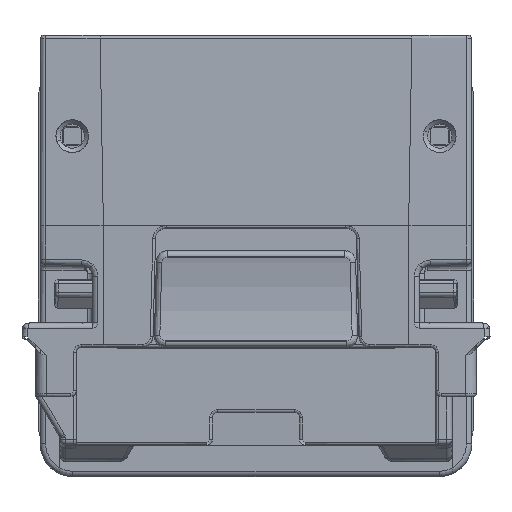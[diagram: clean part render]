
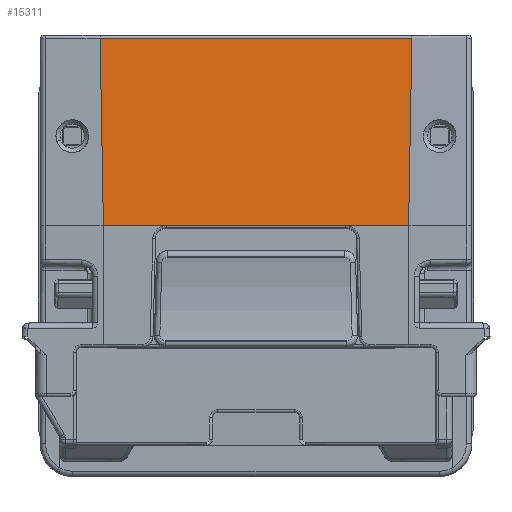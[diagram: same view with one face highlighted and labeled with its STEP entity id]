
A CAD part, front view. The second image highlights one B-rep face of the part: STEP entity #15311.
In plain terms, the highlighted planar face has unit normal (0, -1, 0.009).
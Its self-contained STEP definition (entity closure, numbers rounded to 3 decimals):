
#884 = DIRECTION ( 'NONE',  ( -1., 0., 0. ) ) ;
#2832 = DIRECTION ( 'NONE',  ( 0.017, -0.009, -1. ) ) ;
#3144 = LINE ( 'NONE', #19014, #30616 ) ;
#3338 = VERTEX_POINT ( 'NONE', #39758 ) ;
#3926 = LINE ( 'NONE', #66750, #58544 ) ;
#4484 = VERTEX_POINT ( 'NONE', #23251 ) ;
#5128 = CARTESIAN_POINT ( 'NONE',  ( 27.792, -255.561, -6.12 ) ) ;
#5255 = VECTOR ( 'NONE', #48580, 1000. ) ;
#6745 = CARTESIAN_POINT ( 'NONE',  ( -22.523, -255.198, 35.5 ) ) ;
#7119 = CARTESIAN_POINT ( 'NONE',  ( -22.523, -255.45, 6.6 ) ) ;
#8828 = EDGE_CURVE ( 'NONE', #22387, #57452, #31494, .T. ) ;
#8846 = CARTESIAN_POINT ( 'NONE',  ( -27.806, -255.554, -5.334 ) ) ;
#9711 = ORIENTED_EDGE ( 'NONE', *, *, #64449, .T. ) ;
#11348 = EDGE_LOOP ( 'NONE', ( #64445, #13132, #62945 ) ) ;
#13132 = ORIENTED_EDGE ( 'NONE', *, *, #14838, .F. ) ;
#13192 = CARTESIAN_POINT ( 'NONE',  ( -28.502, -255.206, 34.555 ) ) ;
#14528 = DIRECTION ( 'NONE',  ( 0., -0.009, -1. ) ) ;
#14838 = EDGE_CURVE ( 'NONE', #38296, #57452, #21647, .T. ) ;
#15092 = CARTESIAN_POINT ( 'NONE',  ( 28.615, -255.15, 41.004 ) ) ;
#15311 = ADVANCED_FACE ( 'NONE', ( #56640, #20224, #30695 ), #62283, .T. ) ;
#15736 = LINE ( 'NONE', #48600, #53156 ) ;
#16095 = CARTESIAN_POINT ( 'NONE',  ( -28.615, -255.15, 41.004 ) ) ;
#17209 = ORIENTED_EDGE ( 'NONE', *, *, #33567, .F. ) ;
#17431 = LINE ( 'NONE', #21997, #5255 ) ;
#18114 = CARTESIAN_POINT ( 'NONE',  ( 28.502, -255.206, 34.555 ) ) ;
#19014 = CARTESIAN_POINT ( 'NONE',  ( 28.502, -255.553, -5.242 ) ) ;
#20025 = DIRECTION ( 'NONE',  ( -0.017, 0.009, 1. ) ) ;
#20046 = EDGE_CURVE ( 'NONE', #42072, #22734, #3926, .T. ) ;
#20224 = FACE_OUTER_BOUND ( 'NONE', #37380, .T. ) ;
#20333 = CARTESIAN_POINT ( 'NONE',  ( -22.523, -255.198, 35.5 ) ) ;
#21034 = EDGE_LOOP ( 'NONE', ( #45299, #66225, #69190 ) ) ;
#21364 = EDGE_CURVE ( 'NONE', #38296, #22387, #3144, .T. ) ;
#21521 = VERTEX_POINT ( 'NONE', #24600 ) ;
#21647 = LINE ( 'NONE', #5128, #44834 ) ;
#21997 = CARTESIAN_POINT ( 'NONE',  ( 27.792, -255.561, -6.12 ) ) ;
#22387 = VERTEX_POINT ( 'NONE', #41419 ) ;
#22734 = VERTEX_POINT ( 'NONE', #13192 ) ;
#23251 = CARTESIAN_POINT ( 'NONE',  ( 28.014, -255.45, 6.6 ) ) ;
#24600 = CARTESIAN_POINT ( 'NONE',  ( -28.615, -255.15, 41.004 ) ) ;
#24918 = LINE ( 'NONE', #68040, #60414 ) ;
#25482 = VERTEX_POINT ( 'NONE', #15092 ) ;
#27024 = AXIS2_PLACEMENT_3D ( 'NONE', #40854, #46454, #57701 ) ;
#29293 = VERTEX_POINT ( 'NONE', #16095 ) ;
#29868 = CARTESIAN_POINT ( 'NONE',  ( -27.792, -255.561, -6.12 ) ) ;
#30616 = VECTOR ( 'NONE', #41040, 1000. ) ;
#30695 = FACE_BOUND ( 'NONE', #21034, .T. ) ;
#31006 = VECTOR ( 'NONE', #884, 1000. ) ;
#31278 = ORIENTED_EDGE ( 'NONE', *, *, #32869, .T. ) ;
#31494 = LINE ( 'NONE', #20333, #66043 ) ;
#32869 = EDGE_CURVE ( 'NONE', #54144, #25482, #15736, .T. ) ;
#33567 = EDGE_CURVE ( 'NONE', #3338, #29293, #67076, .T. ) ;
#35491 = EDGE_CURVE ( 'NONE', #62163, #42072, #65322, .T. ) ;
#36683 = DIRECTION ( 'NONE',  ( 0.017, 0.009, 1. ) ) ;
#37380 = EDGE_LOOP ( 'NONE', ( #45386, #31278, #51873, #37528, #17209, #9711 ) ) ;
#37528 = ORIENTED_EDGE ( 'NONE', *, *, #60168, .F. ) ;
#38296 = VERTEX_POINT ( 'NONE', #18114 ) ;
#39758 = CARTESIAN_POINT ( 'NONE',  ( -28.014, -255.45, 6.6 ) ) ;
#40854 = CARTESIAN_POINT ( 'NONE',  ( -22.523, -255.553, -5.242 ) ) ;
#41040 = DIRECTION ( 'NONE',  ( 0., 0.009, 1. ) ) ;
#41419 = CARTESIAN_POINT ( 'NONE',  ( 28.502, -255.198, 35.5 ) ) ;
#41639 = CARTESIAN_POINT ( 'NONE',  ( 28.615, -255.15, 41.004 ) ) ;
#42072 = VERTEX_POINT ( 'NONE', #60682 ) ;
#43338 = LINE ( 'NONE', #53887, #31006 ) ;
#44834 = VECTOR ( 'NONE', #54203, 1000. ) ;
#45299 = ORIENTED_EDGE ( 'NONE', *, *, #52817, .F. ) ;
#45386 = ORIENTED_EDGE ( 'NONE', *, *, #52299, .T. ) ;
#45999 = DIRECTION ( 'NONE',  ( -0.017, 0.009, 1. ) ) ;
#46454 = DIRECTION ( 'NONE',  ( 0., -1., 0.009 ) ) ;
#48580 = DIRECTION ( 'NONE',  ( 0.017, 0.009, 1. ) ) ;
#48600 = CARTESIAN_POINT ( 'NONE',  ( 27.792, -255.561, -6.12 ) ) ;
#51873 = ORIENTED_EDGE ( 'NONE', *, *, #58965, .T. ) ;
#52299 = EDGE_CURVE ( 'NONE', #4484, #54144, #17431, .T. ) ;
#52817 = EDGE_CURVE ( 'NONE', #62163, #22734, #61087, .T. ) ;
#52879 = DIRECTION ( 'NONE',  ( 1., 0., 0. ) ) ;
#53156 = VECTOR ( 'NONE', #36683, 1000. ) ;
#53887 = CARTESIAN_POINT ( 'NONE',  ( -0.002, -255.15, 41.004 ) ) ;
#54144 = VERTEX_POINT ( 'NONE', #41639 ) ;
#54203 = DIRECTION ( 'NONE',  ( 0.017, 0.009, 1. ) ) ;
#54816 = DIRECTION ( 'NONE',  ( 1., 0., 0. ) ) ;
#55109 = DIRECTION ( 'NONE',  ( 1., 0., 0. ) ) ;
#55345 = CARTESIAN_POINT ( 'NONE',  ( 28.518, -255.198, 35.5 ) ) ;
#56640 = FACE_BOUND ( 'NONE', #11348, .T. ) ;
#56887 = CARTESIAN_POINT ( 'NONE',  ( -28.518, -255.198, 35.5 ) ) ;
#57452 = VERTEX_POINT ( 'NONE', #55345 ) ;
#57701 = DIRECTION ( 'NONE',  ( 0., -0.009, -1. ) ) ;
#58544 = VECTOR ( 'NONE', #14528, 1000. ) ;
#58965 = EDGE_CURVE ( 'NONE', #25482, #21521, #43338, .T. ) ;
#60168 = EDGE_CURVE ( 'NONE', #29293, #21521, #24918, .T. ) ;
#60170 = VECTOR ( 'NONE', #54816, 1000. ) ;
#60414 = VECTOR ( 'NONE', #20025, 1000. ) ;
#60682 = CARTESIAN_POINT ( 'NONE',  ( -28.502, -255.198, 35.5 ) ) ;
#61087 = LINE ( 'NONE', #8846, #65743 ) ;
#61174 = VECTOR ( 'NONE', #55109, 1000. ) ;
#62163 = VERTEX_POINT ( 'NONE', #56887 ) ;
#62283 = PLANE ( 'NONE',  #27024 ) ;
#62945 = ORIENTED_EDGE ( 'NONE', *, *, #21364, .T. ) ;
#63163 = VECTOR ( 'NONE', #45999, 1000. ) ;
#64445 = ORIENTED_EDGE ( 'NONE', *, *, #8828, .T. ) ;
#64449 = EDGE_CURVE ( 'NONE', #3338, #4484, #65030, .T. ) ;
#65030 = LINE ( 'NONE', #7119, #60170 ) ;
#65322 = LINE ( 'NONE', #6745, #61174 ) ;
#65743 = VECTOR ( 'NONE', #2832, 1000. ) ;
#66043 = VECTOR ( 'NONE', #52879, 1000. ) ;
#66225 = ORIENTED_EDGE ( 'NONE', *, *, #35491, .T. ) ;
#66750 = CARTESIAN_POINT ( 'NONE',  ( -28.502, -255.553, -5.242 ) ) ;
#67076 = LINE ( 'NONE', #29868, #63163 ) ;
#68040 = CARTESIAN_POINT ( 'NONE',  ( -27.792, -255.561, -6.12 ) ) ;
#69190 = ORIENTED_EDGE ( 'NONE', *, *, #20046, .T. ) ;
